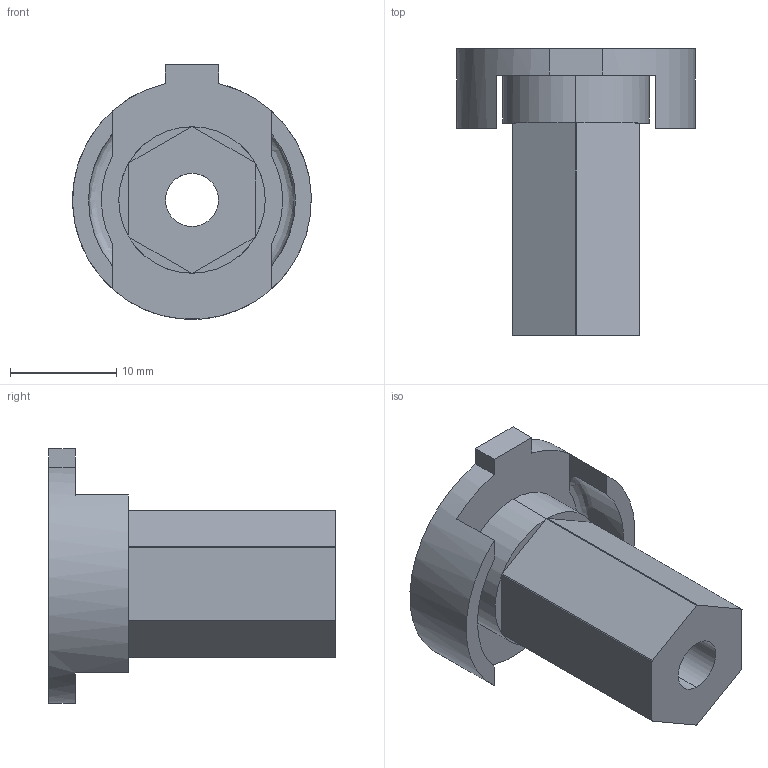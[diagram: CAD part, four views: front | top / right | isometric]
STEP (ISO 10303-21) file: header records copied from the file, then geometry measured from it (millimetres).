
FILE_DESCRIPTION(('Open CASCADE Model'),'2;1');
FILE_NAME('Open CASCADE Shape Model','2026-10-28T15:30:05',('Author'),( 'Open CASCADE'),'Open CASCADE STEP processor 7.9','Open CASCADE 7.9' ,'Unknown');
FILE_SCHEMA(('AUTOMOTIVE_DESIGN { 1 0 10303 214 1 1 1 1 }'));
Length unit declared in the file: millimetre
Products named in the file (1): Open CASCADE STEP translator 7.9 3
Bounding box: 22.49 x 27 x 24 mm (x, y, z)
Volume: 3013.5 mm3; surface area: 3088.2 mm2
Topology: 1 solids, 1 shells, 36 faces, 94 edges, 62 vertices
Faces by surface type: plane 29, cylinder 5, revolution 2
Entity records: 13513 total; most frequent: CARTESIAN_POINT 11796, DIRECTION 264, ORIENTED_EDGE 188, PCURVE 188, DEFINITIONAL_REPRESENTATION 188, LINE 120, VECTOR 120, B_SPLINE_CURVE_WITH_KNOTS 108
